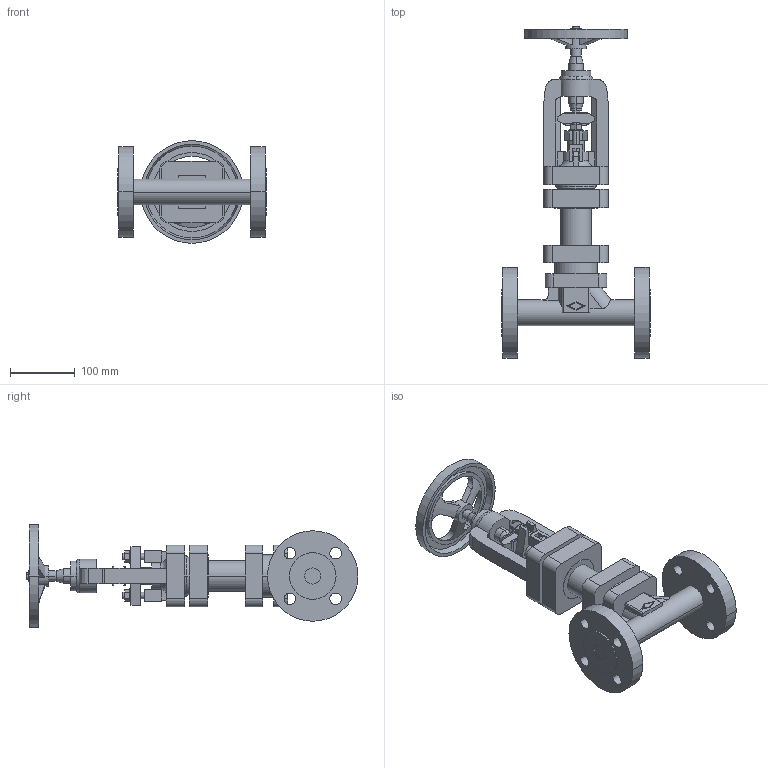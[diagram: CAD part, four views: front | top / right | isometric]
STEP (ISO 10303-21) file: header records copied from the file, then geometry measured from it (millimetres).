
FILE_DESCRIPTION(('Creo Elements/Direct Modeling STEP Export'),'2;1');
FILE_NAME('Figur146_DN25_PN160.stp','2018-01-22T 8:17:15',(''),(''),'Creo Elements/Direct Modeling STEP processor for AP214 (Solid Model)','Creo Elements/Direct Modeling 18.1C 24-Feb-2013 (C) Parametric Technology GmbH','');
FILE_SCHEMA(('AUTOMOTIVE_DESIGN { 1 0 10303 214 1 1 1 1 }'));
Length unit declared in the file: millimetre
Products named in the file (1): 1
Bounding box: 230 x 513.55 x 158.78 mm (x, y, z)
Volume: 2634347.6 mm3; surface area: 328923.5 mm2
Topology: 1 solids, 1 shells, 383 faces, 1030 edges, 680 vertices
Faces by surface type: plane 218, cylinder 137, cone 14, extrusion 8, torus 6
Entity records: 12285 total; most frequent: CARTESIAN_POINT 3066, ORIENTED_EDGE 2060, DIRECTION 1731, EDGE_CURVE 1030, VERTEX_POINT 680, VECTOR 629, LINE 623, AXIS2_PLACEMENT_3D 551
